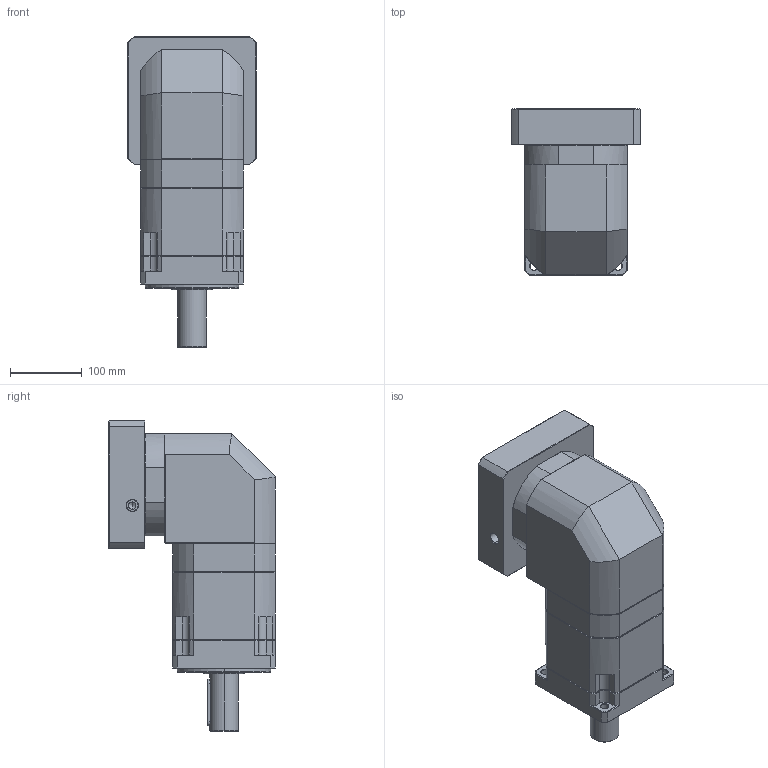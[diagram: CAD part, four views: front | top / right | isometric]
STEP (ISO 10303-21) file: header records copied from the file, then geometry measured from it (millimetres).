
FILE_DESCRIPTION (( 'STEP AP214' ), '1' );
FILE_NAME ('ZBR142A-D40-L3-P2-35-114.3-200-M12.step', '2023-09-02T07:13:59', ( '' ), ( '' ), 'SwSTEP 2.0', 'SolidWorks 2016', '' );
FILE_SCHEMA (( 'AUTOMOTIVE_DESIGN' ));
Length unit declared in the file: millimetre
Products named in the file (1): ZBR142A-D40-L3-P2-35-114.3-200-M12
Bounding box: 178 x 231 x 431.7 mm (x, y, z)
Volume: 7485110.9 mm3; surface area: 466539.9 mm2
Topology: 6 solids, 6 shells, 2322 faces, 6109 edges, 3894 vertices
Faces by surface type: plane 1132, cylinder 418, bspline 410, cone 340, torus 22
Entity records: 129601 total; most frequent: CARTESIAN_POINT 50125, ORIENTED_EDGE 12158, DIRECTION 9620, EDGE_CURVE 6079, LINE 3918, VECTOR 3918, VERTEX_POINT 3894, AXIS2_PLACEMENT_3D 2851
